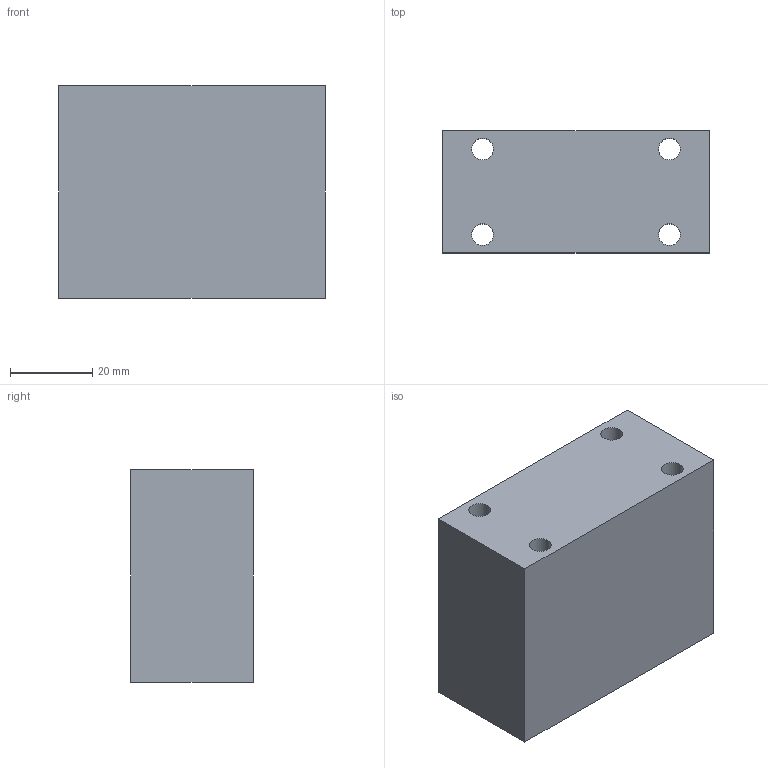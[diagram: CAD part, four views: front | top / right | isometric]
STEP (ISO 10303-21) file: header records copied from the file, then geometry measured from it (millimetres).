
FILE_DESCRIPTION(('Mechanical CAD reference from nasji.com'),'2;1');
FILE_NAME('NASJI.step','',(''),(''),'','NASJI distribution','');
FILE_SCHEMA(('AUTOMOTIVE_DESIGN { 1 0 10303 214 1 1 1 1 }'));
Length unit declared in the file: millimetre
Products named in the file (1): Open CASCADE STEP translator 7.8 8
Bounding box: 65 x 29.8 x 51.7 mm (x, y, z)
Volume: 95580.5 mm3; surface area: 16943.1 mm2
Topology: 1 solids, 1 shells, 10 faces, 24 edges, 16 vertices
Faces by surface type: plane 6, cylinder 4
Full cylindrical faces by diameter (mm): 5.3 x4
Entity records: 658 total; most frequent: CARTESIAN_POINT 147, DIRECTION 94, LINE 56, VECTOR 56, ORIENTED_EDGE 48, PCURVE 48, DEFINITIONAL_REPRESENTATION 48, EDGE_CURVE 24
